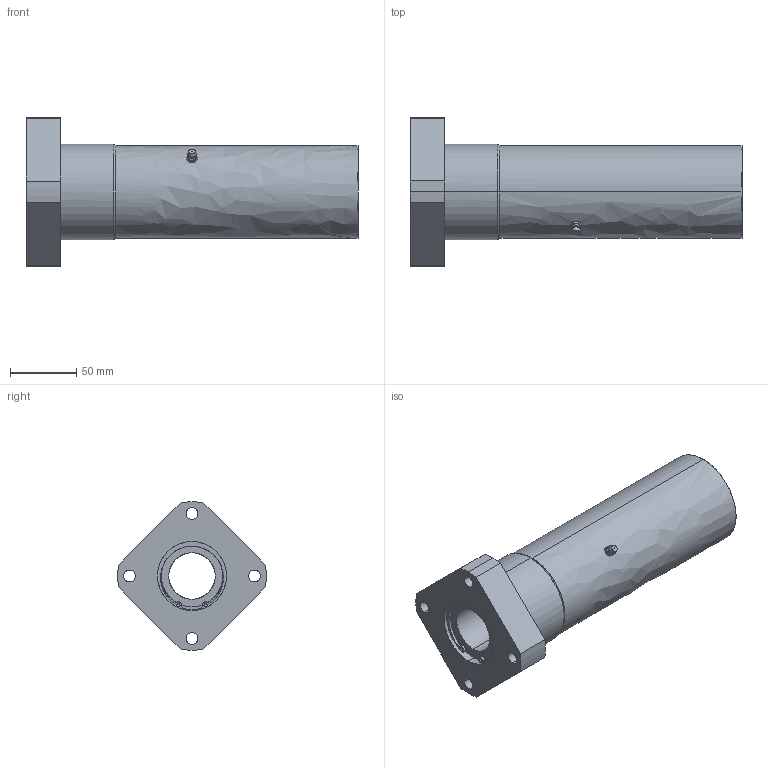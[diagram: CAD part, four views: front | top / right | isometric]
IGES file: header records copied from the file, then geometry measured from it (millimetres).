
Global section: file name: No Iges File Name specified; native system: AutoDesk Inventor R10; preprocessor: AutoDesk Inventor Iges Exporter R10; author: No Author specified; organization: No Organization specified; date: 20101214.140844; units: millimetre
Bounding box: 250 x 111.86 x 112 mm (x, y, z)
Surface area: 112574.2 mm2 (no closed solid volume)
Topology: 0 solids, 0 shells, 159 faces, 1102 edges, 1100 vertices
Faces by surface type: bspline 159
